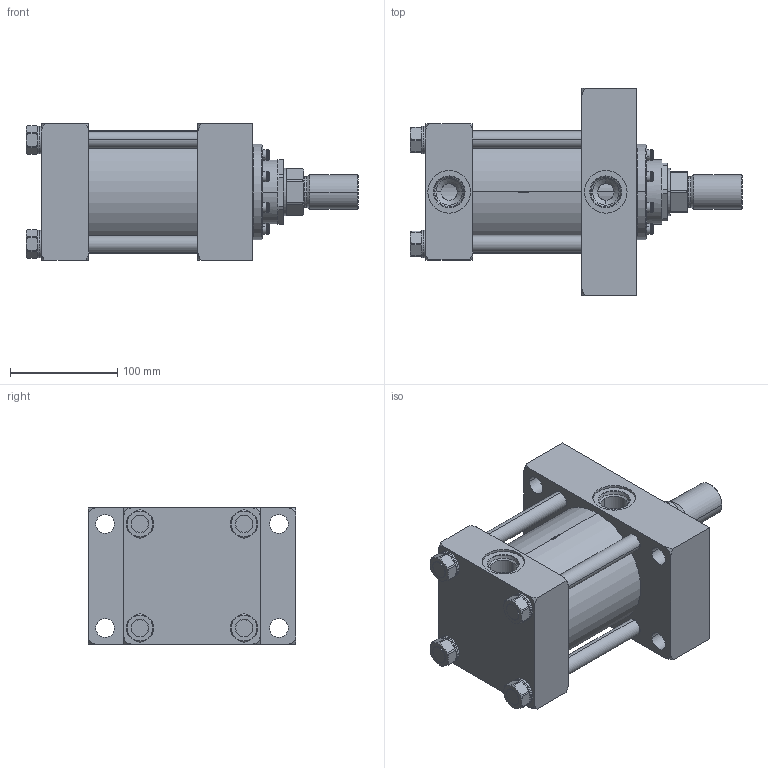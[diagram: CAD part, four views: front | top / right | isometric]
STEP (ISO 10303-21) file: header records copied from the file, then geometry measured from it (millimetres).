
FILE_DESCRIPTION (( 'STEP AP214' ), '1' );
FILE_NAME ('4.00JJ2HHNAT114A2.000.step', '2026-03-26T21:19:18', ( '' ), ( '' ), 'SwSTEP 2.0', 'SolidWorks 2023', '' );
FILE_SCHEMA (( 'AUTOMOTIVE_DESIGN' ));
Length unit declared in the file: inch
Products named in the file (1): 4.00JJ2HHNAT114A2.000
Bounding box: 309.56 x 193.68 x 127 mm (x, y, z)
Volume: 2792499 mm3; surface area: 416251.5 mm2
Topology: 40 solids, 40 shells, 1837 faces, 4866 edges, 3120 vertices
Faces by surface type: plane 825, cylinder 753, cone 229, bspline 22, torus 8
Entity records: 84413 total; most frequent: CARTESIAN_POINT 15424, ORIENTED_EDGE 9652, DIRECTION 9136, EDGE_CURVE 4826, AXIS2_PLACEMENT_3D 3538, VERTEX_POINT 3120, VECTOR 2060, LINE 2060
